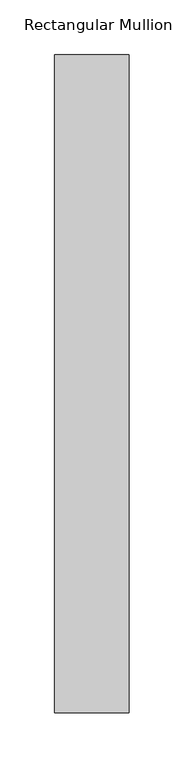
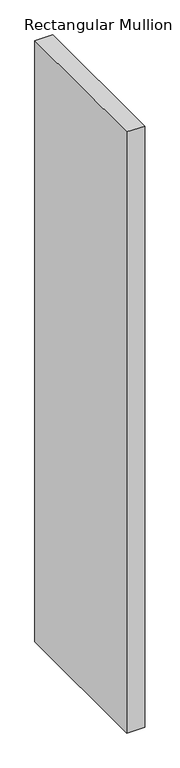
"""IFC4 building model written with IfcOpenShell, lengths in millimetres: member geometry, Rectangular Mullion : DucoSun Cubic Design louvre 600."""

import ifcopenshell
import ifcopenshell.guid

model = None  # the IFC model being written
_history = None  # IfcOwnerHistory: only IFC2X3 demands one
_inside = {}  # id of a spatial element -> (the spatial element, [elements in it])
_under = {}  # id of a project, library or spatial element -> (it, [spatial elements below it])
_declared = {}  # id of a project -> (the project, [libraries it declares])
_typed = {}  # id of a type object -> (the type object, [elements of that type])
_made_of = {}  # id of a material, layer set ... -> (it, [elements and type objects made of it])


def new_model(schema):
    """Start an empty IFC model of exactly this schema.

    Asked for "IFC4X3", IfcOpenShell would pick the latest addendum, in which some entities
    have other attributes; the version numbers below select the first issue.
    IFC2X3 requires an IfcOwnerHistory on every rooted entity: one is made here for all.
    """
    global model, _history
    if schema == "IFC4X3":
        model = ifcopenshell.file(schema_version=(4, 3, 0, 0))
    else:
        model = ifcopenshell.file(schema=schema)
    _inside.clear()
    _under.clear()
    _declared.clear()
    _typed.clear()
    _made_of.clear()
    _history = None
    if model.schema == "IFC2X3":
        org = make("IfcOrganization", Name="unknown")
        user = make(
            "IfcPersonAndOrganization",
            ThePerson=make("IfcPerson", FamilyName="unknown"),
            TheOrganization=org,
        )
        app = make(
            "IfcApplication",
            ApplicationDeveloper=org,
            Version="unknown",
            ApplicationFullName="unknown",
            ApplicationIdentifier="unknown",
        )
        _history = make(
            "IfcOwnerHistory",
            OwningUser=user,
            OwningApplication=app,
            ChangeAction="ADDED",
            CreationDate=0,
        )
    return model


def make(cls, **values):
    """One entity of the class cls with the attributes given. An attribute that is None is left unset."""
    return model.create_entity(
        cls, **{name: value for name, value in values.items() if value is not None}
    )


def rooted(cls, **values):
    """An entity with a GlobalId (a new one), such as an element, a storey or a relation."""
    return make(cls, GlobalId=ifcopenshell.guid.new(), OwnerHistory=_history, **values)


def si_unit(unit_type, name, prefix=None):
    """IfcSIUnit, for example si_unit("LENGTHUNIT", "METRE", prefix="MILLI")."""
    return make("IfcSIUnit", UnitType=unit_type, Prefix=prefix, Name=name)


def assignment(units):
    """IfcUnitAssignment: the units of a project."""
    return None if units is None else make("IfcUnitAssignment", Units=units)


def point(xyz):
    """IfcCartesianPoint."""
    return None if xyz is None else make("IfcCartesianPoint", Coordinates=xyz)


def direction(xyz):
    """IfcDirection."""
    return None if xyz is None else make("IfcDirection", DirectionRatios=xyz)


def frame(location, z_axis=None, x_axis=None):
    """IfcAxis2Placement3D, a coordinate frame: its origin and axes. An axis left out is left unset."""
    return make(
        "IfcAxis2Placement3D",
        Location=point(location),
        Axis=direction(z_axis),
        RefDirection=direction(x_axis),
    )


def origin():
    """The frame at (0, 0, 0) with its axes left unset."""
    return frame((0.0, 0.0, 0.0))


def place(relative_to, where):
    """IfcLocalPlacement: puts the frame where relative to a parent placement (None: the world)."""
    return make(
        "IfcLocalPlacement", PlacementRelTo=relative_to, RelativePlacement=where
    )


def context(
    kind, dimensions, precision=None, world=None, true_north=None, identifier=None
):
    """IfcGeometricRepresentationContext, for example the 3D "Model" context."""
    return make(
        "IfcGeometricRepresentationContext",
        ContextIdentifier=identifier,
        ContextType=kind,
        CoordinateSpaceDimension=dimensions,
        Precision=precision,
        WorldCoordinateSystem=world,
        TrueNorth=true_north,
    )


def project(units=None, contexts=None):
    """IfcProject with its units and contexts."""
    return rooted(
        "IfcProject",
        Name="project",
        RepresentationContexts=contexts,
        UnitsInContext=assignment(units),
    )


def spatial(cls, under=None, at=None, **own):
    """A site, building, storey or space (cls), placed at a placement, below another one or the project."""
    s = rooted(cls, ObjectPlacement=at, **own)
    if under is not None:
        _under.setdefault(under.id(), (under, []))[1].append(s)
    return s


def polyline(points):
    """IfcPolyline through the points."""
    return make("IfcPolyline", Points=[point(p) for p in points])


def outline(outer, holes=None, kind="AREA"):
    """IfcArbitraryClosedProfileDef: a profile drawn as a closed curve; with holes, ...WithVoids."""
    if holes is None:
        return make("IfcArbitraryClosedProfileDef", ProfileType=kind, OuterCurve=outer)
    return make(
        "IfcArbitraryProfileDefWithVoids",
        ProfileType=kind,
        OuterCurve=outer,
        InnerCurves=holes,
    )


def extrude(swept, where, along, depth):
    """IfcExtrudedAreaSolid: the profile swept, set in the frame where, extruded along a direction by depth."""
    return make(
        "IfcExtrudedAreaSolid",
        SweptArea=swept,
        Position=where,
        ExtrudedDirection=direction(along),
        Depth=depth,
    )


def shape(context_of_items, identifier, shape_type, items):
    """IfcShapeRepresentation: the items that make up one representation, for example the "Body"."""
    return make(
        "IfcShapeRepresentation",
        ContextOfItems=context_of_items,
        RepresentationIdentifier=identifier,
        RepresentationType=shape_type,
        Items=items,
    )


def source(mapping_origin, context_of_items, identifier, shape_type, items):
    """IfcRepresentationMap: a shape defined once, which mapped items show again and again."""
    return make(
        "IfcRepresentationMap",
        MappingOrigin=mapping_origin,
        MappedRepresentation=shape(context_of_items, identifier, shape_type, items),
    )


def transform(
    local_origin,
    x_axis=None,
    y_axis=None,
    z_axis=None,
    scale=None,
    scale2=None,
    scale3=None,
    uniform=True,
):
    """IfcCartesianTransformationOperator3D, or its non-uniform kind. x_axis, y_axis, z_axis: its Axis1, 2, 3."""
    if uniform:
        return make(
            "IfcCartesianTransformationOperator3D",
            Axis1=direction(x_axis),
            Axis2=direction(y_axis),
            LocalOrigin=point(local_origin),
            Scale=scale,
            Axis3=direction(z_axis),
        )
    return make(
        "IfcCartesianTransformationOperator3DnonUniform",
        Axis1=direction(x_axis),
        Axis2=direction(y_axis),
        LocalOrigin=point(local_origin),
        Scale=scale,
        Axis3=direction(z_axis),
        Scale2=scale2,
        Scale3=scale3,
    )


def mapped(mapping_source, mapping_target):
    """IfcMappedItem: shows the shape of a source again, moved by a transform."""
    return make(
        "IfcMappedItem", MappingSource=mapping_source, MappingTarget=mapping_target
    )


def made_of(thing, what):
    """Note that an element or type object is made of a material, layer set ...; save() writes the relation."""
    if what is not None:
        _made_of.setdefault(what.id(), (what, []))[1].append(thing)
    return thing


def element(
    cls,
    number,
    at=None,
    inside=None,
    cuts=None,
    type_object=None,
    material=None,
    context=None,
    identifier="Body",
    shape_type=None,
    held_by="IfcProductDefinitionShape",
    body=None,
    shapes=None,
    **own,
):
    """One element of the class cls, such as IfcWall. Its Tag is "e" and its number.

    at: its placement. inside: the storey or other place that contains it. cuts: it is an
    opening in that element (IfcRelVoidsElement). A single representation is given by context,
    identifier, shape_type and body (its items); several are given by shapes. held_by: the class
    of the entity that holds the representations. save() writes the other relations.
    """
    e = rooted(cls, Tag="e%d" % number, ObjectPlacement=at, **own)
    if body is not None:
        shapes = [shape(context, identifier, shape_type, body)]
    if shapes is not None:
        e.Representation = make(held_by, Representations=shapes)
    if inside is not None:
        _inside.setdefault(inside.id(), (inside, []))[1].append(e)
    if cuts is not None:
        rooted(
            "IfcRelVoidsElement", RelatingBuildingElement=cuts, RelatedOpeningElement=e
        )
    if type_object is not None:
        _typed.setdefault(type_object.id(), (type_object, []))[1].append(e)
    return made_of(e, material)


def aggregate(whole, parts):
    """IfcRelAggregates: a whole, such as a stair, and the parts it consists of."""
    return rooted("IfcRelAggregates", RelatingObject=whole, RelatedObjects=parts)


def save(model, path):
    """Write the relations noted so far, then the file.

    IfcRelAggregates (storeys below a building ...), IfcRelContainedInSpatialStructure (elements
    in a storey), IfcRelDefinesByType, IfcRelAssociatesMaterial and IfcRelDeclares: one each for
    every whole, place, type object, material and project.
    """
    for whole, parts in _under.values():
        aggregate(whole, parts)
    for where, things in _inside.values():
        rooted(
            "IfcRelContainedInSpatialStructure",
            RelatedElements=things,
            RelatingStructure=where,
        )
    for kind, things in _typed.values():
        rooted("IfcRelDefinesByType", RelatedObjects=things, RelatingType=kind)
    for what, things in _made_of.values():
        rooted("IfcRelAssociatesMaterial", RelatedObjects=things, RelatingMaterial=what)
    for by, libraries in _declared.values():
        rooted("IfcRelDeclares", RelatingContext=by, RelatedDefinitions=libraries)
    model.write(path)


def rectangular_mullion_f34721f7(model_context):
    return source(origin(), model_context, "Body", "SweptSolid", [
        extrude(outline(polyline([(34.0, 600.0), (34.0, 0.0), (-34.0, 0.0), (-34.0, 600.0), (34.0, 600.0)])), frame((0.0, 0.0, -2400.0), z_axis=(0.0, 0.0, 1.0), x_axis=(1.0, 0.0, 0.0)), (0.0, 0.0, 1.0), 2400.0),
    ])


if __name__ == "__main__":
    model = new_model("IFC4")
    model_context = context("Model", 3, world=origin())
    ifc_project = project(units=[si_unit("LENGTHUNIT", "METRE", prefix="MILLI")], contexts=[model_context])
    site = spatial("IfcSite", under=ifc_project)
    building = spatial("IfcBuilding", under=site)
    placement = place(None, origin())
    rectangular_mullion_shape = rectangular_mullion_f34721f7(model_context)
    element("IfcMember", 1, ObjectType="Rectangular Mullion : DucoSun Cubic Design louvre 600", at=placement, inside=building, context=model_context, shape_type="MappedRepresentation", body=[
        mapped(rectangular_mullion_shape, transform((0.0, 0.0, 0.0), x_axis=(1.0, 0.0, 0.0), y_axis=(0.0, 1.0, 0.0), z_axis=(0.0, 0.0, 1.0))),
    ])
    save(model, "model.ifc")
